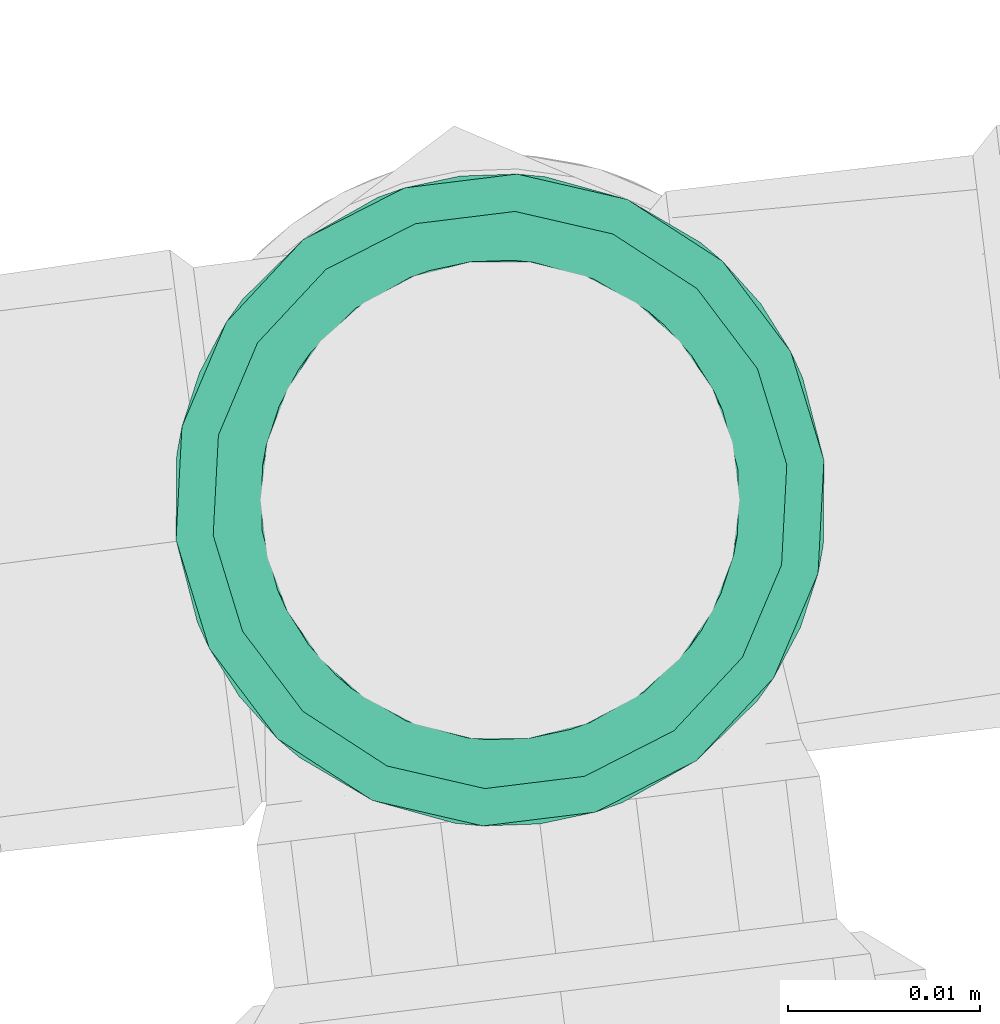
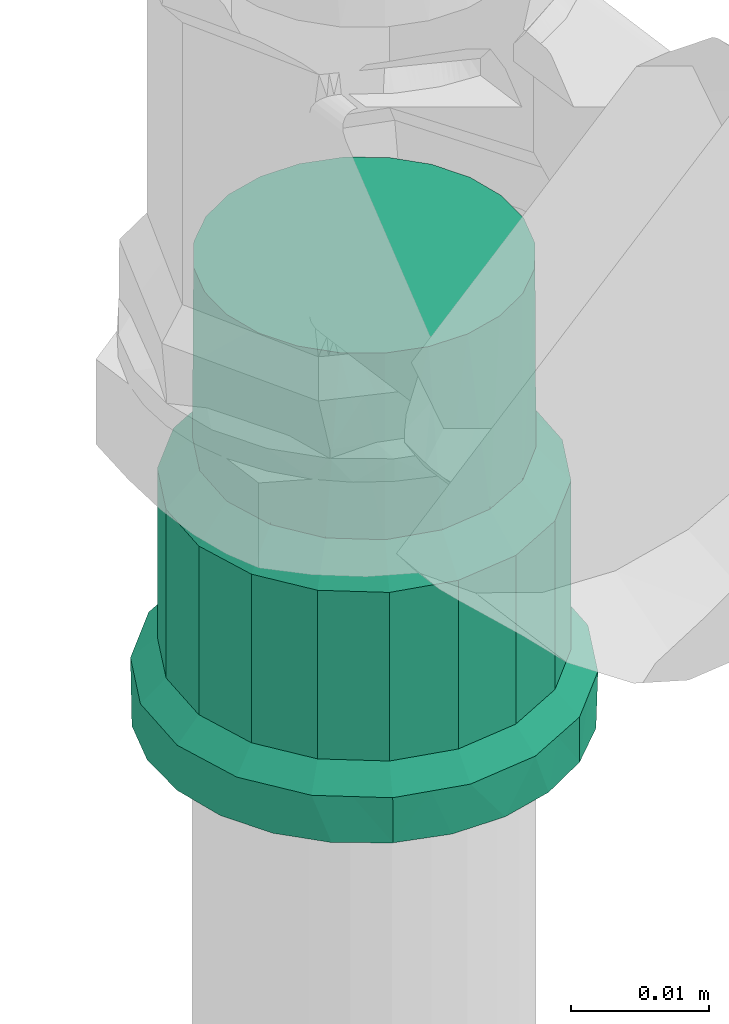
# One storey, part 64 of 97: 1 flow fitting.
"""IFC2X3 building model written with IfcOpenShell, lengths in centimetres."""

from ifc_helpers import new_model, entity, si_unit, converted_unit, derived_unit, direction, frame, origin, place, context, subcontext, project, spatial, faceted_brep, source, transform, mapped, material, type_object, type_shapes, element, save


model = new_model("IFC2X3")

# Units and contexts
model_context = context("Model", 3, precision=0.001, world=origin(), true_north=direction((6.12303176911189e-17, 1.0)))
body_context = subcontext(model_context, "Body", "Model", "MODEL_VIEW")
ifc_project = project(units=[si_unit("LENGTHUNIT", "METRE", prefix="CENTI"), si_unit("AREAUNIT", "SQUARE_METRE"), si_unit("VOLUMEUNIT", "CUBIC_METRE"), converted_unit("PLANEANGLEUNIT", "DEGREE", entity("IfcRatioMeasure", 0.0174532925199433), si_unit("PLANEANGLEUNIT", "RADIAN"), dimensions=[0, 0, 0, 0, 0, 0, 0]), si_unit("MASSUNIT", "GRAM", prefix="KILO"), derived_unit("MASSDENSITYUNIT", [(si_unit("MASSUNIT", "GRAM", prefix="KILO"), 1), (si_unit("LENGTHUNIT", "METRE"), -3)]), derived_unit("MOMENTOFINERTIAUNIT", [(si_unit("LENGTHUNIT", "METRE"), 4)]), si_unit("TIMEUNIT", "SECOND"), si_unit("FREQUENCYUNIT", "HERTZ"), si_unit("THERMODYNAMICTEMPERATUREUNIT", "DEGREE_CELSIUS"), derived_unit("THERMALTRANSMITTANCEUNIT", [(si_unit("MASSUNIT", "GRAM", prefix="KILO"), 1), (si_unit("THERMODYNAMICTEMPERATUREUNIT", "KELVIN"), -1), (si_unit("TIMEUNIT", "SECOND"), -3)]), derived_unit("VOLUMETRICFLOWRATEUNIT", [(si_unit("LENGTHUNIT", "METRE"), 3), (si_unit("TIMEUNIT", "SECOND"), -1)]), si_unit("ELECTRICCURRENTUNIT", "AMPERE"), si_unit("ELECTRICVOLTAGEUNIT", "VOLT"), si_unit("POWERUNIT", "WATT"), si_unit("FORCEUNIT", "NEWTON", prefix="KILO"), si_unit("ILLUMINANCEUNIT", "LUX"), si_unit("LUMINOUSFLUXUNIT", "LUMEN"), si_unit("LUMINOUSINTENSITYUNIT", "CANDELA"), derived_unit("USERDEFINED", [(si_unit("MASSUNIT", "GRAM", prefix="KILO"), -1), (si_unit("LENGTHUNIT", "METRE"), -2), (si_unit("TIMEUNIT", "SECOND"), 3), (si_unit("LUMINOUSFLUXUNIT", "LUMEN"), 1)]), derived_unit("LINEARVELOCITYUNIT", [(si_unit("LENGTHUNIT", "METRE"), 1), (si_unit("TIMEUNIT", "SECOND"), -1)]), si_unit("PRESSUREUNIT", "PASCAL"), derived_unit("USERDEFINED", [(si_unit("LENGTHUNIT", "METRE"), -2), (si_unit("MASSUNIT", "GRAM", prefix="KILO"), 1), (si_unit("TIMEUNIT", "SECOND"), -2)]), derived_unit("LINEARFORCEUNIT", [(si_unit("MASSUNIT", "GRAM", prefix="KILO"), 1), (si_unit("LENGTHUNIT", "METRE"), 1), (si_unit("TIMEUNIT", "SECOND"), -2), (si_unit("LENGTHUNIT", "METRE"), -1)]), derived_unit("PLANARFORCEUNIT", [(si_unit("MASSUNIT", "GRAM", prefix="KILO"), 1), (si_unit("LENGTHUNIT", "METRE"), 1), (si_unit("TIMEUNIT", "SECOND"), -2), (si_unit("LENGTHUNIT", "METRE"), -2)])], contexts=[model_context])

# Site, building, storey
site_placement = place(None, origin())
site = spatial("IfcSite", under=ifc_project, at=site_placement, Name="Default", CompositionType="ELEMENT")
building_placement = place(site_placement, origin())
building = spatial("IfcBuilding", under=site, at=building_placement, Name="HIDROSSANITÁRIO", CompositionType="ELEMENT")
storey_placement = place(building_placement, frame((0.0, 0.0, -260.0)))
storey = spatial("IfcBuildingStorey", under=building, at=storey_placement, Name="TÉRREO-HID", CompositionType="ELEMENT", Elevation=-260.0)

# Flow fitting
ifc_material = material(Name="PVC Marrom")
pipe_fitting_type = type_object("IfcPipeFittingType", Name="PVC Marrom Soldável_Adaptador Curto com Bolsa e Rosca Aninhado:Adaptador", PredefinedType="NOTDEFINED", material=ifc_material)
shared_shape = source(origin(), body_context, "Body", "Brep", [
    faceted_brep([(0.0, 0.624999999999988, -1.08253175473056), (0.0, 1.20208152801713, -1.20208152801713), (0.0, 0.850000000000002, -1.47224318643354), (0.0, 0.883883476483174, -0.883883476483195), (0.0, 0.323523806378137, -1.20740728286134), (0.0, 1.47224318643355, -0.849999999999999), (0.0, 1.08253175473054, -0.625000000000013), (0.0, 1.20740728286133, -0.323523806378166), (0.0, 1.64207390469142, -0.439992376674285), (0.0, 1.25, 0.0), (0.0, 1.7, 0.0), (0.0, 1.20740728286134, 0.323523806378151), (0.0, 1.64207390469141, 0.439992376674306), (0.0, 1.08253175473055, 0.625), (0.0, 1.47224318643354, 0.850000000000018), (0.0, 0.883883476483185, 0.883883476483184), (0.0, 1.20208152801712, 1.20208152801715), (0.0, 0.625000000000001, 1.08253175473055), (0.0, 0.849999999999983, 1.47224318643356), (0.0, 0.323523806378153, 1.20740728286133), (0.0, 0.439992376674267, 1.64207390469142), (0.0, 0.0, 1.25), (0.0, 0.0, 1.7), (0.0, -0.323523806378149, 1.20740728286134), (0.0, -0.439992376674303, 1.64207390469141), (0.0, -0.624999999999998, 1.08253175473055), (0.0, -0.850000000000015, 1.47224318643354), (0.0, -0.883883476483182, 0.883883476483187), (0.0, -1.20208152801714, 1.20208152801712), (0.0, -1.08253175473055, 0.625000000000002), (0.0, -1.47224318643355, 0.849999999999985), (0.0, -1.64207390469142, 0.439992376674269), (0.0, -1.20740728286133, 0.323523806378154), (0.0, -1.7, 0.0), (0.0, -1.25, 0.0), (0.0, -1.64207390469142, -0.43999237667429), (0.0, -1.20740728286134, -0.323523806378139), (0.0, -1.47224318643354, -0.850000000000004), (0.0, -1.08253175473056, -0.624999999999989), (0.0, -1.20208152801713, -1.20208152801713), (0.0, -0.883883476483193, -0.883883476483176), (0.0, -0.849999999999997, -1.47224318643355), (0.0, -0.625000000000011, -1.08253175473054), (0.0, -0.439992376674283, -1.64207390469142), (0.0, -0.323523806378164, -1.20740728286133), (0.0, 0.0, -1.7), (0.0, 0.0, -1.25), (0.0, 0.439992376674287, -1.64207390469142), (0.399999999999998, -1.64873062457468, 0.290739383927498), (0.399999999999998, -1.59746124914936, 0.581478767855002), (0.399999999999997, -1.30221463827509, 1.09281152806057), (0.399999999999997, -1.07604576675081, 1.28256289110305), (0.399999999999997, -1.44983794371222, 0.837145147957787), (0.399999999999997, -0.295015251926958, 1.67420608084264), (0.399999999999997, -0.57244607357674, 1.57326016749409), (0.399999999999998, -1.7, 0.0), (0.399999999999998, -1.659968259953, 0.227012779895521), (0.399999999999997, -0.849876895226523, 1.47231425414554), (0.399999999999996, 0.572840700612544, 1.57311652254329), (0.399999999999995, 0.850246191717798, 1.47210102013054), (0.399999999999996, 0.295435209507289, 1.67413202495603), (0.399999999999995, 1.07636745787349, 1.28229292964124), (0.399999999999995, 1.30248872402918, 1.09248483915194), (0.399999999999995, 1.5976070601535, 0.581078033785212), (0.399999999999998, 1.7, 0.0), (0.399999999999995, 1.45004789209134, 0.836781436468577), (0.399999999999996, 0.000209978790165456, 1.67416905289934), (0.400000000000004, 1.59760706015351, -0.581078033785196), (0.400000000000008, 1.30248872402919, -1.09248483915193), (0.400000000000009, 1.0763674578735, -1.28229292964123), (0.400000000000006, 1.45004789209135, -0.836781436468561), (0.400000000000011, 0.295435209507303, -1.67413202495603), (0.40000000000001, 0.572840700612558, -1.57311652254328), (0.40000000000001, 0.850246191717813, -1.47210102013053), (0.4, -1.64873062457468, -0.290739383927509), (0.400000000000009, -0.572446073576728, -1.57326016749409), (0.400000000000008, -0.849876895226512, -1.47231425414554), (0.40000000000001, -0.295015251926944, -1.67420608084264), (0.400000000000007, -1.0760457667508, -1.28256289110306), (0.400000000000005, -1.30221463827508, -1.09281152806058), (0.400000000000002, -1.59746124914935, -0.581478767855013), (0.400000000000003, -1.44983794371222, -0.837145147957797), (0.40000000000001, 0.000209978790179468, -1.67416905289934), (0.399999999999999, -1.65996825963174, -0.227012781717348), (2.085, -1.41422304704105, 0.514779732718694), (0.590000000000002, -1.41422304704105, 0.514779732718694), (0.590000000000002, -1.45961152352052, 0.257389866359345), (0.590000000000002, -1.505, 0.0), (2.085, -1.505, 0.0), (2.085, -1.45961152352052, 0.257389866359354), (2.085, -1.45359735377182, 0.291495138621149), (2.08499999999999, -0.752391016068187, 1.30343114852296), (0.590000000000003, -0.752391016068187, 1.30343114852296), (0.590000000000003, -0.952616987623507, 1.13544538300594), (0.590000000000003, -1.15284295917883, 0.967459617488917), (2.08499999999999, -1.15284295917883, 0.967459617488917), (2.08499999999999, -0.952616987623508, 1.13544538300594), (0.590000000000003, -1.28353300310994, 0.741119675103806), (2.085, -1.28353300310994, 0.741119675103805), (0.590000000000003, -0.506783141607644, 1.39279797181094), (2.08499999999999, -0.506783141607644, 1.39279797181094), (2.08499999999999, -0.261175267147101, 1.48216479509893), (0.590000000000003, -0.261175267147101, 1.48216479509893), (0.590000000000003, 0.000185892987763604, 1.48213201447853), (2.08499999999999, 0.000185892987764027, 1.48213201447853), (2.08499999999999, 0.261547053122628, 1.48209923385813), (0.590000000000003, 0.261547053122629, 1.48209923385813), (2.08499999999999, 0.75271795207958, 1.3032423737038), (0.590000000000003, 0.752717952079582, 1.3032423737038), (0.590000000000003, 0.507132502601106, 1.39267080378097), (2.08499999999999, 0.507132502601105, 1.39267080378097), (2.08499999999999, 1.15308560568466, 0.967170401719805), (0.590000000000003, 1.15308560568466, 0.967170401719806), (0.590000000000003, 0.952901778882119, 1.1352063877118), (2.08499999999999, 0.952901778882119, 1.1352063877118), (2.085, 1.4143521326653, 0.514424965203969), (0.590000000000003, 1.4143521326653, 0.514424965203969), (0.590000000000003, 1.28371886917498, 0.740797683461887), (2.085, 1.28371886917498, 0.740797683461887), (2.085, 1.505, 0.0), (0.590000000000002, 1.505, 0.0), (2.08500000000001, 1.41435213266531, -0.514424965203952), (0.590000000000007, 1.41435213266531, -0.514424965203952), (0.590000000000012, 0.752717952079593, -1.3032423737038), (0.590000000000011, 0.95290177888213, -1.13520638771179), (0.59000000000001, 1.15308560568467, -0.967170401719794), (2.08500000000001, 1.15308560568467, -0.967170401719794), (2.08500000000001, 0.95290177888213, -1.13520638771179), (2.08500000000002, 0.752717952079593, -1.3032423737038), (2.08500000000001, -1.41422304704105, -0.514779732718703), (0.590000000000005, -1.41422304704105, -0.514779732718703), (0.590000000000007, -1.28353300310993, -0.741119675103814), (0.590000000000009, -1.15284295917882, -0.967459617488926), (2.08500000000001, -1.15284295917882, -0.967459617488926), (2.08500000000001, -1.28353300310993, -0.741119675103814), (2.08500000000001, -0.752391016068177, -1.30343114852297), (0.590000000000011, -0.752391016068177, -1.30343114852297), (0.590000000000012, -0.506783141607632, -1.39279797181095), (0.590000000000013, -0.261175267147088, -1.48216479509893), (2.08500000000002, -0.261175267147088, -1.48216479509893), (2.08500000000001, -0.506783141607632, -1.39279797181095), (0.590000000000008, 1.28371886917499, -0.740797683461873), (2.08500000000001, 1.28371886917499, -0.740797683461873), (0.590000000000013, 0.507132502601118, -1.39267080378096), (2.08500000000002, 0.507132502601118, -1.39267080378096), (2.08500000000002, 0.261547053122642, -1.48209923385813), (0.590000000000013, 0.261547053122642, -1.48209923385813), (2.085, -1.45359734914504, -0.291495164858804), (2.085, -1.46677519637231, -0.216765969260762), (0.590000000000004, -1.45961152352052, -0.257389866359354), (0.59000000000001, -0.952616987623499, -1.13544538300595), (2.08500000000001, -0.952616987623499, -1.13544538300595), (0.590000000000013, 0.000185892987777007, -1.48213201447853), (2.08500000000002, 0.000185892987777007, -1.48213201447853), (4.03, 0.323523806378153, -1.20740728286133), (4.03, 0.625000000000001, -1.08253175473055), (4.03, 0.883883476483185, -0.883883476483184), (4.03, 1.08253175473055, -0.624999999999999), (4.03, 1.20740728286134, -0.323523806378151), (4.03, 1.25, 0.0), (4.03, 1.20740728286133, 0.323523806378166), (4.03, 1.08253175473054, 0.625000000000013), (4.03, 0.883883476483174, 0.883883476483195), (4.03, 0.624999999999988, 1.08253175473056), (4.03, 0.323523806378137, 1.20740728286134), (4.03, 0.0, 1.25), (4.03, -0.323523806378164, 1.20740728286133), (4.03, -0.625000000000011, 1.08253175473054), (4.03, -0.883883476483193, 0.883883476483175), (4.03, -1.08253175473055, 0.624999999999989), (4.03, -1.20740728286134, 0.323523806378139), (4.03, -1.25, 0.0), (4.03, -1.20740728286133, -0.323523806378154), (4.03, -1.08253175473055, -0.625000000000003), (4.03, -0.883883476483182, -0.883883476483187), (4.03, -0.624999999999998, -1.08253175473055), (4.03, -0.323523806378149, -1.20740728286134), (4.03, 0.0, -1.25), (2.375, -1.25, 0.0), (2.37499999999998, -0.957510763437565, 0.803537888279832), (2.37499999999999, -1.17460385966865, 0.427557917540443), (2.37499999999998, -0.624909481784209, 1.08258401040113), (2.37499999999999, -1.06605731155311, 0.615547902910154), (2.375, -1.21825182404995, 0.180038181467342), (2.37499999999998, -0.216922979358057, 1.23103388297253), (2.37499999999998, -0.420916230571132, 1.15680894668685), (2.37499999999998, -0.791210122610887, 0.943060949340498), (2.37499999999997, 0.217231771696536, 1.23097943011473), (2.37499999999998, 0.625181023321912, 1.08242722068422), (2.37499999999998, 0.957712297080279, 0.803297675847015), (2.37499999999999, 1.17471107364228, 0.427263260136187), (2.37499999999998, 0.791446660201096, 0.94286244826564), (2.37499999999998, 0.421206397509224, 1.1567033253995), (2.375, 1.25, 0.0), (2.37499999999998, 1.06621168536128, 0.615280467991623), (2.37499999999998, 0.000154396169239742, 1.23100665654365), (2.37500000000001, 0.957712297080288, -0.803297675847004), (2.375, 1.17471107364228, -0.427263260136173), (2.37500000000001, 0.625181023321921, -1.08242722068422), (2.37500000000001, 1.06621168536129, -0.615280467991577), (2.37500000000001, 0.217231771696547, -1.23097943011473), (2.37500000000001, 0.421206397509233, -1.15670332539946), (2.37500000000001, 0.791446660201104, -0.942862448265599), (2.37500000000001, -0.216922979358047, -1.23103388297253), (2.37500000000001, -0.6249094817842, -1.08258401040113), (2.375, -0.957510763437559, -0.803537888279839), (2.375, -1.17460385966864, -0.427557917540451), (2.37500000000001, -0.79121012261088, -0.943060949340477), (2.37500000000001, -0.420916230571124, -1.15680894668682), (2.375, -1.21230192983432, -0.213778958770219), (2.375, -1.0660573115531, -0.615547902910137), (2.37500000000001, 0.00015439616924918, -1.23100665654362), (0.590000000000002, -1.25, 0.0), (2.085, -1.25, 0.0), (2.085, -1.20740728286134, -0.323523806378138), (0.590000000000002, -1.20740728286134, -0.323523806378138), (0.399999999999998, -1.20740728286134, -0.323523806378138), (0.399999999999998, -1.25, 0.0), (2.085, -1.08253175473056, -0.624999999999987), (0.590000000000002, -1.08253175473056, -0.624999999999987), (0.399999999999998, -1.08253175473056, -0.624999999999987), (0.590000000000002, -0.625000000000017, -1.08253175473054), (0.399999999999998, -0.625000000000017, -1.08253175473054), (0.399999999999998, -0.883883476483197, -0.883883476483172), (0.590000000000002, -0.883883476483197, -0.883883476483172), (2.085, -0.883883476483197, -0.883883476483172), (2.085, -0.625000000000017, -1.08253175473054), (0.590000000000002, -0.32352380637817, -1.20740728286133), (0.399999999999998, -0.32352380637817, -1.20740728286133), (2.085, -0.32352380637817, -1.20740728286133), (2.085, 0.0, -1.25), (0.590000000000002, 0.0, -1.25), (0.399999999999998, 0.0, -1.25), (2.085, 0.323523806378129, -1.20740728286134), (0.590000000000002, 0.323523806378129, -1.20740728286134), (0.399999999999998, 0.323523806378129, -1.20740728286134), (2.085, 0.624999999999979, -1.08253175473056), (0.590000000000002, 0.624999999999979, -1.08253175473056), (0.399999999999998, 0.624999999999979, -1.08253175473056), (0.590000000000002, 1.08253175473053, -0.625000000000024), (0.399999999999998, 1.08253175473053, -0.625000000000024), (0.399999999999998, 0.883883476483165, -0.883883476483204), (0.590000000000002, 0.883883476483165, -0.883883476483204), (2.085, 0.883883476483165, -0.883883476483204), (2.085, 1.08253175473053, -0.625000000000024), (0.590000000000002, 1.20740728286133, -0.323523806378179), (0.399999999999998, 1.20740728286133, -0.323523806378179), (2.085, 1.20740728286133, -0.323523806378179), (2.085, 1.25, 0.0), (0.590000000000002, 1.25, 0.0), (0.399999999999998, 1.25, 0.0), (2.085, 1.20740728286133, 0.323523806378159), (0.590000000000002, 1.20740728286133, 0.323523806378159), (0.399999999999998, 1.20740728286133, 0.323523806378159), (2.085, 1.08253175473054, 0.625000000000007), (0.590000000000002, 1.08253175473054, 0.625000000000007), (0.399999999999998, 1.08253175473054, 0.625000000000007), (0.590000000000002, 0.624999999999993, 1.08253175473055), (0.399999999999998, 0.624999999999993, 1.08253175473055), (0.399999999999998, 0.883883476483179, 0.88388347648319), (0.590000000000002, 0.883883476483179, 0.88388347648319), (2.085, 0.883883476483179, 0.88388347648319), (2.085, 0.624999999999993, 1.08253175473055), (0.590000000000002, 0.323523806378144, 1.20740728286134), (0.399999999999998, 0.323523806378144, 1.20740728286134), (2.085, 0.323523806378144, 1.20740728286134), (2.085, 0.0, 1.25), (0.590000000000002, 0.0, 1.25), (0.399999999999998, 0.0, 1.25), (2.085, -0.323523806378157, 1.20740728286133), (0.590000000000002, -0.323523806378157, 1.20740728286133), (0.399999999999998, -0.323523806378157, 1.20740728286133), (2.085, -0.625000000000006, 1.08253175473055), (0.590000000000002, -0.625000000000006, 1.08253175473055), (0.399999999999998, -0.625000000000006, 1.08253175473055), (0.590000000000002, -1.08253175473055, 0.624999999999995), (0.399999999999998, -1.08253175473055, 0.624999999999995), (0.399999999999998, -0.883883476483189, 0.88388347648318), (0.590000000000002, -0.883883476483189, 0.88388347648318), (2.085, -0.883883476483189, 0.88388347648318), (2.085, -1.08253175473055, 0.624999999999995), (0.590000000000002, -1.20740728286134, 0.323523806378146), (0.399999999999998, -1.20740728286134, 0.323523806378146), (2.085, -1.20740728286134, 0.323523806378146)], [[[0, 1, 2]], [[3, 1, 0]], [[4, 0, 2]], [[1, 3, 5]], [[5, 3, 6]], [[5, 6, 7]], [[8, 5, 7]], [[9, 8, 7]], [[10, 8, 9]], [[10, 9, 11]], [[12, 10, 11]], [[12, 11, 13]], [[14, 12, 13]], [[14, 13, 15]], [[15, 16, 14]], [[15, 17, 16]], [[18, 16, 17]], [[19, 18, 17]], [[18, 19, 20]], [[21, 20, 19]], [[22, 20, 21]], [[21, 23, 22]], [[24, 22, 23]], [[25, 24, 23]], [[24, 25, 26]], [[25, 27, 26]], [[27, 28, 26]], [[28, 27, 29]], [[28, 29, 30]], [[30, 29, 31]], [[31, 29, 32]], [[33, 31, 32]], [[32, 34, 33]], [[33, 34, 35]], [[34, 36, 35]], [[37, 35, 36]], [[37, 36, 38]], [[39, 37, 38]], [[40, 39, 38]], [[40, 41, 39]], [[42, 41, 40]], [[43, 41, 42]], [[42, 44, 43]], [[43, 44, 45]], [[46, 45, 44]], [[46, 4, 47]], [[45, 46, 47]], [[2, 47, 4]], [[48, 49, 31]], [[28, 50, 51]], [[50, 30, 49, 52]], [[53, 24, 54]], [[30, 31, 49]], [[33, 55, 56, 48]], [[51, 57, 26]], [[51, 26, 28]], [[30, 50, 28]], [[58, 59, 18]], [[58, 18, 20]], [[26, 57, 54]], [[26, 54, 24]], [[22, 24, 53]], [[33, 48, 31]], [[20, 60, 58]], [[16, 61, 62]], [[12, 63, 64]], [[63, 14, 62, 65]], [[12, 64, 10]], [[18, 61, 16]], [[22, 53, 66, 60]], [[22, 60, 20]], [[14, 16, 62]], [[59, 61, 18]], [[14, 63, 12]], [[8, 64, 67]], [[1, 68, 69]], [[68, 5, 67, 70]], [[71, 47, 72]], [[5, 8, 67]], [[8, 10, 64]], [[2, 72, 47]], [[69, 73, 2]], [[5, 68, 1]], [[74, 33, 35]], [[75, 76, 41]], [[2, 73, 72]], [[75, 41, 43]], [[45, 47, 71]], [[69, 2, 1]], [[43, 77, 75]], [[39, 78, 79]], [[35, 80, 74]], [[80, 37, 79, 81]], [[37, 80, 35]], [[41, 78, 39]], [[45, 71, 82, 77]], [[45, 77, 43]], [[37, 39, 79]], [[76, 78, 41]], [[33, 74, 83, 55]], [[84, 85, 86, 87, 88, 89, 90]], [[91, 92, 93, 94, 95, 96]], [[97, 85, 84, 98, 95, 94]], [[99, 92, 91, 100, 101, 102]], [[103, 102, 101, 104, 105, 106]], [[107, 108, 109, 106, 105, 110]], [[111, 112, 113, 108, 107, 114]], [[115, 116, 117, 112, 111, 118]], [[115, 119, 120, 116]], [[120, 119, 121, 122]], [[123, 124, 125, 126, 127, 128]], [[129, 130, 131, 132, 133, 134]], [[135, 136, 137, 138, 139, 140]], [[141, 122, 121, 142, 126, 125]], [[143, 123, 128, 144, 145, 146]], [[147, 148, 88, 87, 149, 130, 129]], [[133, 132, 150, 136, 135, 151]], [[152, 146, 145, 153, 139, 138]], [[154, 155, 156, 157, 158, 159, 160, 161, 162, 163, 164, 165, 166, 167, 168, 169, 170, 171, 172, 173, 174, 175, 176, 177]], [[178, 171, 170]], [[179, 169, 168]], [[170, 169, 180]], [[168, 167, 181]], [[169, 179, 182, 180]], [[170, 180, 183, 178]], [[166, 184, 185, 181]], [[168, 181, 186, 179]], [[184, 166, 165]], [[181, 167, 166]], [[164, 187, 165]], [[163, 188, 164]], [[189, 162, 161]], [[163, 162, 188]], [[190, 161, 160]], [[162, 189, 191, 188]], [[164, 188, 192, 187]], [[160, 193, 190]], [[161, 190, 194, 189]], [[160, 159, 193]], [[165, 187, 195, 184]], [[193, 159, 158]], [[196, 157, 156]], [[158, 157, 197]], [[156, 155, 198]], [[157, 196, 199, 197]], [[197, 193, 158]], [[154, 200, 201, 198]], [[156, 198, 202, 196]], [[200, 154, 177]], [[198, 155, 154]], [[176, 203, 177]], [[175, 204, 176]], [[205, 174, 173]], [[175, 174, 204]], [[206, 173, 172]], [[174, 205, 207, 204]], [[176, 204, 208, 203]], [[172, 178, 209, 206]], [[173, 206, 210, 205]], [[172, 171, 178]], [[177, 203, 211, 200]], [[212, 213, 214, 215, 216, 36, 34, 217]], [[215, 214, 218, 219, 220, 38, 36, 216]], [[221, 222, 42, 40, 223, 224, 225, 226]], [[225, 224, 223, 40, 38, 220, 219, 218]], [[227, 228, 44, 42, 222, 221, 226, 229]], [[227, 229, 230, 231, 232, 46, 44, 228]], [[231, 230, 233, 234, 235, 4, 46, 232]], [[234, 233, 236, 237, 238, 0, 4, 235]], [[239, 240, 6, 3, 241, 242, 243, 244]], [[243, 242, 241, 3, 0, 238, 237, 236]], [[245, 246, 7, 6, 240, 239, 244, 247]], [[245, 247, 248, 249, 250, 9, 7, 246]], [[249, 248, 251, 252, 253, 11, 9, 250]], [[252, 251, 254, 255, 256, 13, 11, 253]], [[257, 258, 17, 15, 259, 260, 261, 262]], [[261, 260, 259, 15, 13, 256, 255, 254]], [[263, 264, 19, 17, 258, 257, 262, 265]], [[263, 265, 266, 267, 268, 21, 19, 264]], [[267, 266, 269, 270, 271, 23, 21, 268]], [[270, 269, 272, 273, 274, 25, 23, 271]], [[275, 276, 29, 27, 277, 278, 279, 280]], [[279, 278, 277, 27, 25, 274, 273, 272]], [[281, 282, 32, 29, 276, 275, 280, 283]], [[281, 283, 213, 212, 217, 34, 32, 282]], [[120, 122, 67, 64]], [[73, 123, 143, 146, 71, 72]], [[123, 73, 69, 68, 125, 124]], [[70, 67, 122, 141, 125, 68]], [[77, 138, 137, 136, 76, 75]], [[130, 80, 81, 79, 132, 131]], [[149, 87, 55, 83, 74, 80, 130]], [[82, 71, 146, 152, 138, 77]], [[78, 76, 136, 150, 132, 79]], [[49, 48, 56, 55, 87, 86, 85]], [[52, 49, 85, 97, 94, 50]], [[51, 50, 94, 93, 92, 57]], [[92, 99, 102, 53, 54, 57]], [[103, 106, 60, 66, 53, 102]], [[109, 108, 59, 58, 60, 106]], [[116, 120, 64, 63]], [[112, 117, 116, 63, 65, 62]], [[108, 113, 112, 62, 61, 59]], [[233, 230, 229, 226, 225, 218, 214, 213, 283, 280, 279, 272, 269, 266, 265, 262, 261, 254, 251, 248, 247, 244, 243, 236]], [[180, 84, 90, 89, 88, 178, 183]], [[184, 101, 100, 91, 181, 185]], [[96, 95, 179, 186, 181, 91]], [[98, 84, 180, 182, 179, 95]], [[101, 184, 195, 187, 105, 104]], [[190, 115, 118, 111, 189, 194]], [[105, 187, 192, 188, 107, 110]], [[190, 193, 119, 115]], [[114, 107, 188, 191, 189, 111]], [[193, 197, 121, 119]], [[128, 198, 201, 200, 145, 144]], [[198, 128, 127, 126, 196, 202]], [[142, 121, 197, 199, 196, 126]], [[139, 203, 208, 204, 135, 140]], [[206, 129, 134, 133, 205, 210]], [[209, 178, 88, 148, 147, 129, 206]], [[153, 145, 200, 211, 203, 139]], [[151, 135, 204, 207, 205, 133]]]),
])
type_shapes(pipe_fitting_type, [shared_shape])
flow_fitting_placement = place(storey_placement, frame((-1768.33138926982, 2878.4050435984, 174.525), z_axis=(0.122152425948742, -0.992511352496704, 0.0), x_axis=(0.0, 0.0, 1.0)))
element("IfcFlowFitting", 1, at=flow_fitting_placement, inside=storey, type_object=pipe_fitting_type, material=ifc_material, Name="PVC Marrom Soldável_Adaptador Curto com Bolsa e Rosca Aninhado:Adaptador", ObjectType="PVC Marrom Soldável_Adaptador Curto com Bolsa e Rosca Aninhado:Adaptador", context=body_context, shape_type="MappedRepresentation", body=[
    mapped(shared_shape, transform((0.0, 0.0, 0.0), scale=1.0)),
])

save(model, "model.ifc")
